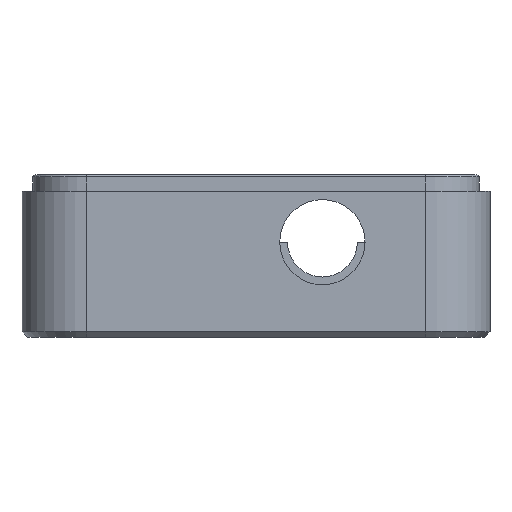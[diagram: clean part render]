
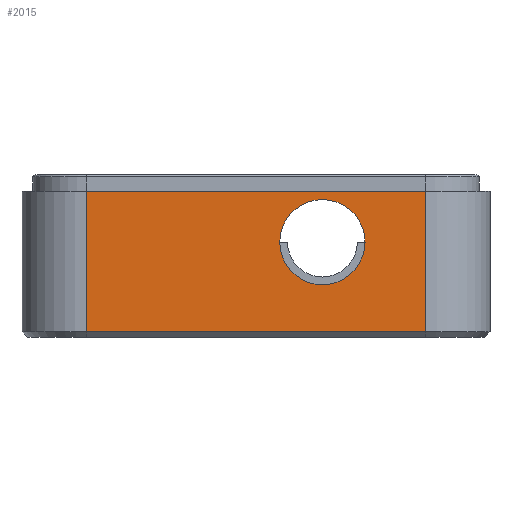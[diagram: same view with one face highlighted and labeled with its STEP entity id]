
A CAD part, left-side view. The second image highlights one B-rep face of the part: STEP entity #2015.
In plain terms, the highlighted planar face has unit normal (-1, 0, 0).
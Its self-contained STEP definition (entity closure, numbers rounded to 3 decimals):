
#26=FACE_BOUND('',#245,.T.);
#49=PLANE('',#2167);
#125=FACE_OUTER_BOUND('',#244,.T.);
#244=EDGE_LOOP('',(#1448,#1449,#1450,#1451));
#245=EDGE_LOOP('',(#1452));
#389=CIRCLE('',#2168,3.85);
#492=LINE('',#3066,#701);
#501=LINE('',#3096,#710);
#503=LINE('',#3102,#712);
#504=LINE('',#3103,#713);
#701=VECTOR('',#2417,10.);
#710=VECTOR('',#2450,10.);
#712=VECTOR('',#2456,10.);
#713=VECTOR('',#2457,10.);
#918=VERTEX_POINT('',#3056);
#920=VERTEX_POINT('',#3062);
#930=VERTEX_POINT('',#3095);
#932=VERTEX_POINT('',#3101);
#933=VERTEX_POINT('',#3104);
#1119=EDGE_CURVE('',#918,#920,#492,.T.);
#1134=EDGE_CURVE('',#920,#930,#501,.T.);
#1137=EDGE_CURVE('',#918,#932,#503,.T.);
#1138=EDGE_CURVE('',#930,#932,#504,.T.);
#1139=EDGE_CURVE('',#933,#933,#389,.T.);
#1448=ORIENTED_EDGE('',*,*,#1119,.F.);
#1449=ORIENTED_EDGE('',*,*,#1137,.T.);
#1450=ORIENTED_EDGE('',*,*,#1138,.F.);
#1451=ORIENTED_EDGE('',*,*,#1134,.F.);
#1452=ORIENTED_EDGE('',*,*,#1139,.T.);
#2015=ADVANCED_FACE('',(#125,#26),#49,.T.);
#2167=AXIS2_PLACEMENT_3D('',#3100,#2454,#2455);
#2168=AXIS2_PLACEMENT_3D('',#3105,#2458,#2459);
#2417=DIRECTION('',(0.,1.,0.));
#2450=DIRECTION('',(0.,0.,1.));
#2454=DIRECTION('center_axis',(-1.,0.,0.));
#2455=DIRECTION('ref_axis',(0.,1.,0.));
#2456=DIRECTION('',(0.,0.,1.));
#2457=DIRECTION('',(0.,-1.,0.));
#2458=DIRECTION('center_axis',(1.,0.,0.));
#2459=DIRECTION('ref_axis',(0.,-1.,0.));
#3056=CARTESIAN_POINT('',(-11.84,-16.,-1.5));
#3062=CARTESIAN_POINT('',(-11.84,14.6,-1.5));
#3066=CARTESIAN_POINT('',(-11.84,-8.35,-1.5));
#3095=CARTESIAN_POINT('',(-11.84,14.6,11.2));
#3096=CARTESIAN_POINT('',(-11.84,14.6,8.2));
#3100=CARTESIAN_POINT('Origin',(-11.84,-16.,8.2));
#3101=CARTESIAN_POINT('',(-11.84,-16.,11.2));
#3102=CARTESIAN_POINT('',(-11.84,-16.,8.2));
#3103=CARTESIAN_POINT('',(-11.84,-8.35,11.2));
#3104=CARTESIAN_POINT('',(-11.84,-2.85,6.6));
#3105=CARTESIAN_POINT('Origin',(-11.84,-6.7,6.6));
